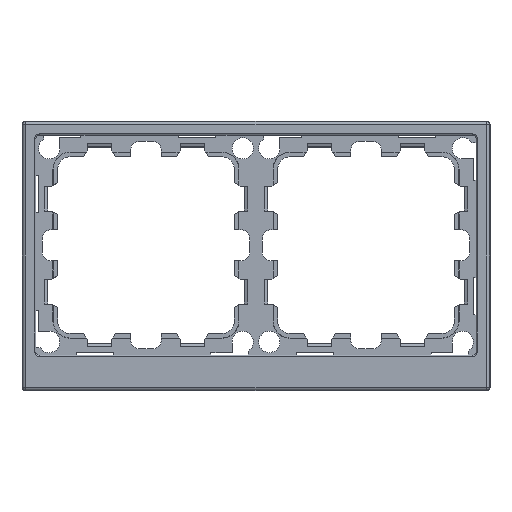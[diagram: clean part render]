
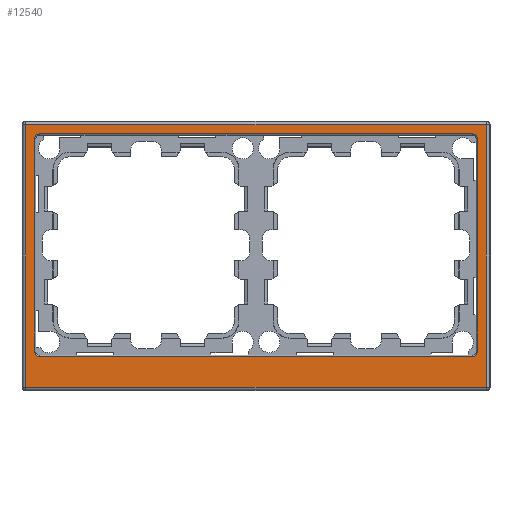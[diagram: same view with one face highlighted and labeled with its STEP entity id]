
A CAD part, front view. The second image highlights one B-rep face of the part: STEP entity #12540.
In plain terms, the highlighted planar face has unit normal (0, -1, 0).
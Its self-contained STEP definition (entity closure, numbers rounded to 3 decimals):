
#40 = CARTESIAN_POINT ( 'NONE',  ( 70., -6.3, -35.87 ) ) ;
#72 = DIRECTION ( 'NONE',  ( 0., 0., 1. ) ) ;
#192 = VERTEX_POINT ( 'NONE', #3262 ) ;
#213 = VERTEX_POINT ( 'NONE', #6385 ) ;
#283 = LINE ( 'NONE', #4718, #1031 ) ;
#360 = ORIENTED_EDGE ( 'NONE', *, *, #3777, .T. ) ;
#449 = EDGE_LOOP ( 'NONE', ( #4373, #756, #12814, #778, #360, #1491, #1240, #4038 ) ) ;
#561 = EDGE_CURVE ( 'NONE', #213, #4755, #12196, .T. ) ;
#756 = ORIENTED_EDGE ( 'NONE', *, *, #5659, .T. ) ;
#778 = ORIENTED_EDGE ( 'NONE', *, *, #561, .T. ) ;
#809 = CARTESIAN_POINT ( 'NONE',  ( -70., -6.3, -34.5 ) ) ;
#1031 = VECTOR ( 'NONE', #6149, 1000. ) ;
#1061 = VECTOR ( 'NONE', #12909, 1000. ) ;
#1150 = CARTESIAN_POINT ( 'NONE',  ( 71.37, -6.3, 34.5 ) ) ;
#1202 = LINE ( 'NONE', #7008, #9295 ) ;
#1240 = ORIENTED_EDGE ( 'NONE', *, *, #12818, .T. ) ;
#1468 = CARTESIAN_POINT ( 'NONE',  ( -74.5, -6.3, -35.87 ) ) ;
#1486 = VERTEX_POINT ( 'NONE', #3014 ) ;
#1491 = ORIENTED_EDGE ( 'NONE', *, *, #11854, .T. ) ;
#1507 = CARTESIAN_POINT ( 'NONE',  ( -74.5, -6.3, -46. ) ) ;
#1551 = AXIS2_PLACEMENT_3D ( 'NONE', #1507, #11319, #5933 ) ;
#1593 = CARTESIAN_POINT ( 'NONE',  ( -70., -6.3, 35.87 ) ) ;
#1679 = CARTESIAN_POINT ( 'NONE',  ( -74.5, -6.3, -45.835 ) ) ;
#1835 = VERTEX_POINT ( 'NONE', #13303 ) ;
#2137 = DIRECTION ( 'NONE',  ( 0., 0., -1. ) ) ;
#2170 = CARTESIAN_POINT ( 'NONE',  ( 74.335, -6.3, -46. ) ) ;
#2341 = DIRECTION ( 'NONE',  ( 0., 0., -1. ) ) ;
#2348 = CARTESIAN_POINT ( 'NONE',  ( 70., -6.3, -34.5 ) ) ;
#2556 = DIRECTION ( 'NONE',  ( 0., 1., 0. ) ) ;
#2663 = AXIS2_PLACEMENT_3D ( 'NONE', #7097, #6280, #3757 ) ;
#2703 = CIRCLE ( 'NONE', #11049, 1.37 ) ;
#2756 = EDGE_CURVE ( 'NONE', #192, #8309, #9452, .T. ) ;
#3014 = CARTESIAN_POINT ( 'NONE',  ( -71.37, -6.3, -34.5 ) ) ;
#3262 = CARTESIAN_POINT ( 'NONE',  ( -74.335, -6.3, -45.835 ) ) ;
#3422 = EDGE_CURVE ( 'NONE', #6270, #213, #1202, .T. ) ;
#3590 = CIRCLE ( 'NONE', #2663, 1.37 ) ;
#3757 = DIRECTION ( 'NONE',  ( 0., 0., -1. ) ) ;
#3777 = EDGE_CURVE ( 'NONE', #4755, #4986, #11129, .T. ) ;
#3861 = EDGE_CURVE ( 'NONE', #7413, #12815, #7926, .T. ) ;
#4038 = ORIENTED_EDGE ( 'NONE', *, *, #3861, .T. ) ;
#4049 = CARTESIAN_POINT ( 'NONE',  ( -74.5, -6.3, 38.835 ) ) ;
#4252 = VECTOR ( 'NONE', #5013, 1000. ) ;
#4373 = ORIENTED_EDGE ( 'NONE', *, *, #10248, .T. ) ;
#4718 = CARTESIAN_POINT ( 'NONE',  ( -74.5, -6.3, 35.87 ) ) ;
#4755 = VERTEX_POINT ( 'NONE', #40 ) ;
#4883 = DIRECTION ( 'NONE',  ( 1., 0., 0. ) ) ;
#4925 = FACE_BOUND ( 'NONE', #449, .T. ) ;
#4986 = VERTEX_POINT ( 'NONE', #12797 ) ;
#5013 = DIRECTION ( 'NONE',  ( 0., 0., 1. ) ) ;
#5659 = EDGE_CURVE ( 'NONE', #10319, #6270, #3590, .T. ) ;
#5933 = DIRECTION ( 'NONE',  ( 0., 0., -1. ) ) ;
#6149 = DIRECTION ( 'NONE',  ( 1., 0., 0. ) ) ;
#6270 = VERTEX_POINT ( 'NONE', #1150 ) ;
#6280 = DIRECTION ( 'NONE',  ( 0., 1., 0. ) ) ;
#6385 = CARTESIAN_POINT ( 'NONE',  ( 71.37, -6.3, -34.5 ) ) ;
#6450 = DIRECTION ( 'NONE',  ( 0., 0., -1. ) ) ;
#6496 = ORIENTED_EDGE ( 'NONE', *, *, #2756, .T. ) ;
#6542 = EDGE_CURVE ( 'NONE', #1835, #9732, #14002, .T. ) ;
#6572 = DIRECTION ( 'NONE',  ( 0., 1., 0. ) ) ;
#6607 = LINE ( 'NONE', #2170, #8918 ) ;
#6735 = LINE ( 'NONE', #14232, #9856 ) ;
#6764 = CARTESIAN_POINT ( 'NONE',  ( 74.335, -6.3, -45.835 ) ) ;
#7008 = CARTESIAN_POINT ( 'NONE',  ( 71.37, -6.3, -46. ) ) ;
#7097 = CARTESIAN_POINT ( 'NONE',  ( 70., -6.3, 34.5 ) ) ;
#7305 = EDGE_LOOP ( 'NONE', ( #14276, #9752, #11039, #6496 ) ) ;
#7413 = VERTEX_POINT ( 'NONE', #13234 ) ;
#7926 = CIRCLE ( 'NONE', #10466, 1.37 ) ;
#8282 = LINE ( 'NONE', #10521, #4252 ) ;
#8309 = VERTEX_POINT ( 'NONE', #6764 ) ;
#8345 = CARTESIAN_POINT ( 'NONE',  ( 70., -6.3, 35.87 ) ) ;
#8393 = VECTOR ( 'NONE', #9093, 1000. ) ;
#8586 = DIRECTION ( 'NONE',  ( 0., 0., -1. ) ) ;
#8918 = VECTOR ( 'NONE', #72, 1000. ) ;
#9039 = DIRECTION ( 'NONE',  ( 0., 0., -1. ) ) ;
#9093 = DIRECTION ( 'NONE',  ( -1., 0., 0. ) ) ;
#9295 = VECTOR ( 'NONE', #9039, 1000. ) ;
#9452 = LINE ( 'NONE', #1679, #12997 ) ;
#9673 = DIRECTION ( 'NONE',  ( 0., 1., 0. ) ) ;
#9732 = VERTEX_POINT ( 'NONE', #12654 ) ;
#9752 = ORIENTED_EDGE ( 'NONE', *, *, #6542, .T. ) ;
#9856 = VECTOR ( 'NONE', #6450, 1000. ) ;
#10029 = EDGE_CURVE ( 'NONE', #8309, #1835, #6607, .T. ) ;
#10117 = CARTESIAN_POINT ( 'NONE',  ( -70., -6.3, 34.5 ) ) ;
#10248 = EDGE_CURVE ( 'NONE', #12815, #10319, #283, .T. ) ;
#10319 = VERTEX_POINT ( 'NONE', #8345 ) ;
#10387 = EDGE_CURVE ( 'NONE', #9732, #192, #6735, .T. ) ;
#10466 = AXIS2_PLACEMENT_3D ( 'NONE', #10117, #2556, #2341 ) ;
#10521 = CARTESIAN_POINT ( 'NONE',  ( -71.37, -6.3, -46. ) ) ;
#11039 = ORIENTED_EDGE ( 'NONE', *, *, #10387, .T. ) ;
#11049 = AXIS2_PLACEMENT_3D ( 'NONE', #809, #9673, #8586 ) ;
#11129 = LINE ( 'NONE', #1468, #8393 ) ;
#11319 = DIRECTION ( 'NONE',  ( 0., -1., 0. ) ) ;
#11854 = EDGE_CURVE ( 'NONE', #4986, #1486, #2703, .T. ) ;
#12196 = CIRCLE ( 'NONE', #12664, 1.37 ) ;
#12411 = PLANE ( 'NONE',  #1551 ) ;
#12540 = ADVANCED_FACE ( 'NONE', ( #4925, #13861 ), #12411, .T. ) ;
#12654 = CARTESIAN_POINT ( 'NONE',  ( -74.335, -6.3, 38.835 ) ) ;
#12664 = AXIS2_PLACEMENT_3D ( 'NONE', #2348, #6572, #2137 ) ;
#12797 = CARTESIAN_POINT ( 'NONE',  ( -70., -6.3, -35.87 ) ) ;
#12814 = ORIENTED_EDGE ( 'NONE', *, *, #3422, .T. ) ;
#12815 = VERTEX_POINT ( 'NONE', #1593 ) ;
#12818 = EDGE_CURVE ( 'NONE', #1486, #7413, #8282, .T. ) ;
#12909 = DIRECTION ( 'NONE',  ( -1., 0., 0. ) ) ;
#12997 = VECTOR ( 'NONE', #4883, 1000. ) ;
#13234 = CARTESIAN_POINT ( 'NONE',  ( -71.37, -6.3, 34.5 ) ) ;
#13303 = CARTESIAN_POINT ( 'NONE',  ( 74.335, -6.3, 38.835 ) ) ;
#13861 = FACE_OUTER_BOUND ( 'NONE', #7305, .T. ) ;
#14002 = LINE ( 'NONE', #4049, #1061 ) ;
#14232 = CARTESIAN_POINT ( 'NONE',  ( -74.335, -6.3, -46. ) ) ;
#14276 = ORIENTED_EDGE ( 'NONE', *, *, #10029, .T. ) ;
